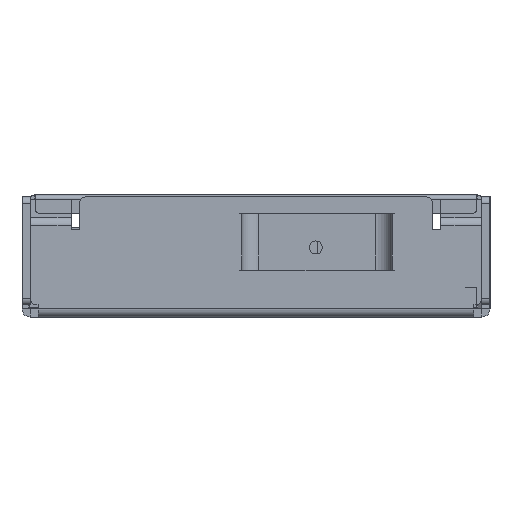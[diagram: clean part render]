
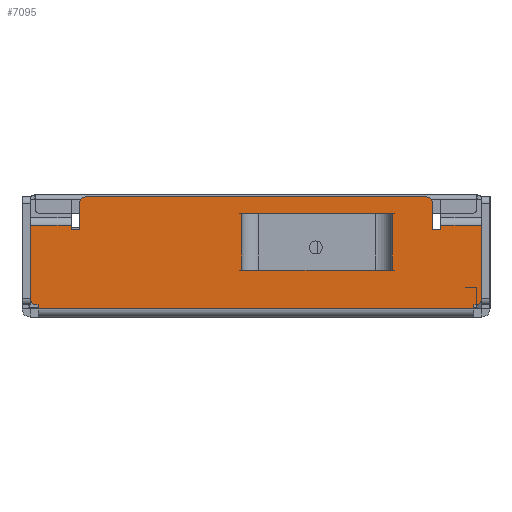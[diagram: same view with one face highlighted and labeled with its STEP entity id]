
A CAD part, left-side view. The second image highlights one B-rep face of the part: STEP entity #7095.
In plain terms, the highlighted planar face has unit normal (-1, 0, 0).
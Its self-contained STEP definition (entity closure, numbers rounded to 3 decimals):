
#1744=DIRECTION('',(0.,0.,-1.));
#1745=VECTOR('',#1744,1.);
#1746=CARTESIAN_POINT('',(0.,62.111,1.));
#1747=LINE('',#1746,#1745);
#1837=DIRECTION('',(0.,-1.,0.));
#1838=VECTOR('',#1837,107.);
#1839=CARTESIAN_POINT('',(0.,62.111,0.));
#1840=LINE('',#1839,#1838);
#1841=CARTESIAN_POINT('',(0.,50.511,26.));
#1842=DIRECTION('',(1.,0.,0.));
#1843=DIRECTION('',(0.,1.,0.));
#1844=AXIS2_PLACEMENT_3D('',#1841,#1842,#1843);
#1846=DIRECTION('',(0.,-1.,0.));
#1847=VECTOR('',#1846,83.8);
#1848=CARTESIAN_POINT('',(0.,50.511,27.5));
#1849=LINE('',#1848,#1847);
#1850=CARTESIAN_POINT('',(0.,-33.289,26.));
#1851=DIRECTION('',(1.,0.,0.));
#1852=DIRECTION('',(0.,0.,1.));
#1853=AXIS2_PLACEMENT_3D('',#1850,#1851,#1852);
#1855=DIRECTION('',(0.,-1.,0.));
#1856=VECTOR('',#1855,2.);
#1857=CARTESIAN_POINT('',(0.,-34.789,19.5));
#1858=LINE('',#1857,#1856);
#1859=DIRECTION('',(0.,0.,1.));
#1860=VECTOR('',#1859,1.);
#1861=CARTESIAN_POINT('',(0.,-36.789,19.5));
#1862=LINE('',#1861,#1860);
#1863=DIRECTION('',(0.,0.,-1.));
#1864=VECTOR('',#1863,18.);
#1865=CARTESIAN_POINT('',(0.,-46.789,20.5));
#1866=LINE('',#1865,#1864);
#1867=CARTESIAN_POINT('',(0.,-45.289,2.5));
#1868=DIRECTION('',(1.,0.,0.));
#1869=DIRECTION('',(0.,-1.,0.));
#1870=AXIS2_PLACEMENT_3D('',#1867,#1868,#1869);
#1872=DIRECTION('',(0.,1.,0.));
#1873=VECTOR('',#1872,0.4);
#1874=CARTESIAN_POINT('',(0.,-45.289,1.));
#1875=LINE('',#1874,#1873);
#1876=DIRECTION('',(0.,0.,-1.));
#1877=VECTOR('',#1876,1.);
#1878=CARTESIAN_POINT('',(0.,-44.889,1.));
#1879=LINE('',#1878,#1877);
#1880=DIRECTION('',(0.,1.,0.));
#1881=VECTOR('',#1880,0.4);
#1882=CARTESIAN_POINT('',(0.,62.111,1.));
#1883=LINE('',#1882,#1881);
#1884=CARTESIAN_POINT('',(0.,62.511,2.5));
#1885=DIRECTION('',(1.,0.,0.));
#1886=DIRECTION('',(0.,0.,-1.));
#1887=AXIS2_PLACEMENT_3D('',#1884,#1885,#1886);
#1889=DIRECTION('',(0.,0.,1.));
#1890=VECTOR('',#1889,18.);
#1891=CARTESIAN_POINT('',(0.,64.011,2.5));
#1892=LINE('',#1891,#1890);
#1893=DIRECTION('',(0.,-1.,0.));
#1894=VECTOR('',#1893,2.);
#1895=CARTESIAN_POINT('',(0.,54.011,19.5));
#1896=LINE('',#1895,#1894);
#1897=DIRECTION('',(0.,0.,1.));
#1898=VECTOR('',#1897,6.5);
#1899=CARTESIAN_POINT('',(0.,52.011,19.5));
#1900=LINE('',#1899,#1898);
#1921=DIRECTION('',(0.,0.,1.));
#1922=VECTOR('',#1921,6.5);
#1923=CARTESIAN_POINT('',(0.,-34.789,19.5));
#1924=LINE('',#1923,#1922);
#2093=DIRECTION('',(0.,1.,0.));
#2094=VECTOR('',#2093,10.);
#2095=CARTESIAN_POINT('',(0.,-46.789,20.5));
#2096=LINE('',#2095,#2094);
#2117=DIRECTION('',(0.,0.,1.));
#2118=VECTOR('',#2117,1.);
#2119=CARTESIAN_POINT('',(0.,54.011,19.5));
#2120=LINE('',#2119,#2118);
#2130=DIRECTION('',(0.,1.,0.));
#2131=VECTOR('',#2130,10.);
#2132=CARTESIAN_POINT('',(0.,54.011,20.5));
#2133=LINE('',#2132,#2131);
#2285=DIRECTION('',(0.,-1.,0.));
#2286=VECTOR('',#2285,37.);
#2287=CARTESIAN_POINT('',(0.,12.111,23.5));
#2288=LINE('',#2287,#2286);
#2307=DIRECTION('',(0.,0.,-1.));
#2308=VECTOR('',#2307,14.);
#2309=CARTESIAN_POINT('',(0.,-24.889,23.5));
#2310=LINE('',#2309,#2308);
#2329=DIRECTION('',(0.,1.,0.));
#2330=VECTOR('',#2329,37.);
#2331=CARTESIAN_POINT('',(0.,-24.889,9.5));
#2332=LINE('',#2331,#2330);
#2351=DIRECTION('',(0.,0.,1.));
#2352=VECTOR('',#2351,14.);
#2353=CARTESIAN_POINT('',(0.,12.111,9.5));
#2354=LINE('',#2353,#2352);
#4749=CARTESIAN_POINT('',(0.,62.111,0.));
#4750=VERTEX_POINT('',#4749);
#4753=CARTESIAN_POINT('',(0.,62.111,1.));
#4754=VERTEX_POINT('',#4753);
#4797=CARTESIAN_POINT('',(0.,-44.889,0.));
#4798=VERTEX_POINT('',#4797);
#4799=CARTESIAN_POINT('',(0.,-44.889,1.));
#4800=VERTEX_POINT('',#4799);
#4801=CARTESIAN_POINT('',(0.,52.011,26.));
#4802=CARTESIAN_POINT('',(0.,50.511,27.5));
#4803=VERTEX_POINT('',#4801);
#4804=VERTEX_POINT('',#4802);
#4805=CARTESIAN_POINT('',(0.,-33.289,27.5));
#4806=VERTEX_POINT('',#4805);
#4807=CARTESIAN_POINT('',(0.,-34.789,26.));
#4808=VERTEX_POINT('',#4807);
#4809=CARTESIAN_POINT('',(0.,-34.789,19.5));
#4810=VERTEX_POINT('',#4809);
#4811=CARTESIAN_POINT('',(0.,-36.789,19.5));
#4812=VERTEX_POINT('',#4811);
#4813=CARTESIAN_POINT('',(0.,-36.789,20.5));
#4814=VERTEX_POINT('',#4813);
#4815=CARTESIAN_POINT('',(0.,-46.789,20.5));
#4816=VERTEX_POINT('',#4815);
#4817=CARTESIAN_POINT('',(0.,-46.789,2.5));
#4818=VERTEX_POINT('',#4817);
#4819=CARTESIAN_POINT('',(0.,-45.289,1.));
#4820=VERTEX_POINT('',#4819);
#4821=CARTESIAN_POINT('',(0.,62.511,1.));
#4822=VERTEX_POINT('',#4821);
#4823=CARTESIAN_POINT('',(0.,64.011,2.5));
#4824=VERTEX_POINT('',#4823);
#4825=CARTESIAN_POINT('',(0.,64.011,20.5));
#4826=VERTEX_POINT('',#4825);
#4827=CARTESIAN_POINT('',(0.,54.011,20.5));
#4828=VERTEX_POINT('',#4827);
#4829=CARTESIAN_POINT('',(0.,54.011,19.5));
#4830=VERTEX_POINT('',#4829);
#4831=CARTESIAN_POINT('',(0.,52.011,19.5));
#4832=VERTEX_POINT('',#4831);
#4833=CARTESIAN_POINT('',(0.,12.111,23.5));
#4834=CARTESIAN_POINT('',(0.,-24.889,23.5));
#4835=VERTEX_POINT('',#4833);
#4836=VERTEX_POINT('',#4834);
#4837=CARTESIAN_POINT('',(0.,12.111,9.5));
#4838=VERTEX_POINT('',#4837);
#4839=CARTESIAN_POINT('',(0.,-24.889,9.5));
#4840=VERTEX_POINT('',#4839);
#7041=CARTESIAN_POINT('',(0.,-46.889,-2.));
#7042=DIRECTION('',(-1.,0.,0.));
#7043=DIRECTION('',(0.,-1.,0.));
#7044=AXIS2_PLACEMENT_3D('',#7041,#7042,#7043);
#7045=PLANE('',#7044);
#7047=ORIENTED_EDGE('',*,*,#7046,.T.);
#7049=ORIENTED_EDGE('',*,*,#7048,.T.);
#7051=ORIENTED_EDGE('',*,*,#7050,.T.);
#7053=ORIENTED_EDGE('',*,*,#7052,.F.);
#7055=ORIENTED_EDGE('',*,*,#7054,.T.);
#7057=ORIENTED_EDGE('',*,*,#7056,.T.);
#7059=ORIENTED_EDGE('',*,*,#7058,.F.);
#7061=ORIENTED_EDGE('',*,*,#7060,.T.);
#7063=ORIENTED_EDGE('',*,*,#7062,.T.);
#7065=ORIENTED_EDGE('',*,*,#7064,.T.);
#7066=ORIENTED_EDGE('',*,*,#6983,.T.);
#7067=ORIENTED_EDGE('',*,*,#7035,.F.);
#7068=ORIENTED_EDGE('',*,*,#6913,.F.);
#7070=ORIENTED_EDGE('',*,*,#7069,.T.);
#7072=ORIENTED_EDGE('',*,*,#7071,.T.);
#7074=ORIENTED_EDGE('',*,*,#7073,.T.);
#7076=ORIENTED_EDGE('',*,*,#7075,.F.);
#7078=ORIENTED_EDGE('',*,*,#7077,.F.);
#7080=ORIENTED_EDGE('',*,*,#7079,.T.);
#7082=ORIENTED_EDGE('',*,*,#7081,.T.);
#7083=EDGE_LOOP('',(#7047,#7049,#7051,#7053,#7055,#7057,#7059,#7061,#7063,#7065,
#7066,#7067,#7068,#7070,#7072,#7074,#7076,#7078,#7080,#7082));
#7084=FACE_OUTER_BOUND('',#7083,.F.);
#7086=ORIENTED_EDGE('',*,*,#7085,.F.);
#7088=ORIENTED_EDGE('',*,*,#7087,.F.);
#7090=ORIENTED_EDGE('',*,*,#7089,.F.);
#7092=ORIENTED_EDGE('',*,*,#7091,.F.);
#7093=EDGE_LOOP('',(#7086,#7088,#7090,#7092));
#7094=FACE_BOUND('',#7093,.F.);
#1845=CIRCLE('',#1844,1.5);
#1854=CIRCLE('',#1853,1.5);
#1871=CIRCLE('',#1870,1.5);
#1888=CIRCLE('',#1887,1.5);
#6913=EDGE_CURVE('',#4754,#4750,#1747,.T.);
#6983=EDGE_CURVE('',#4800,#4798,#1879,.T.);
#7035=EDGE_CURVE('',#4750,#4798,#1840,.T.);
#7046=EDGE_CURVE('',#4803,#4804,#1845,.T.);
#7048=EDGE_CURVE('',#4804,#4806,#1849,.T.);
#7050=EDGE_CURVE('',#4806,#4808,#1854,.T.);
#7052=EDGE_CURVE('',#4810,#4808,#1924,.T.);
#7054=EDGE_CURVE('',#4810,#4812,#1858,.T.);
#7056=EDGE_CURVE('',#4812,#4814,#1862,.T.);
#7058=EDGE_CURVE('',#4816,#4814,#2096,.T.);
#7060=EDGE_CURVE('',#4816,#4818,#1866,.T.);
#7062=EDGE_CURVE('',#4818,#4820,#1871,.T.);
#7064=EDGE_CURVE('',#4820,#4800,#1875,.T.);
#7069=EDGE_CURVE('',#4754,#4822,#1883,.T.);
#7071=EDGE_CURVE('',#4822,#4824,#1888,.T.);
#7073=EDGE_CURVE('',#4824,#4826,#1892,.T.);
#7075=EDGE_CURVE('',#4828,#4826,#2133,.T.);
#7077=EDGE_CURVE('',#4830,#4828,#2120,.T.);
#7079=EDGE_CURVE('',#4830,#4832,#1896,.T.);
#7081=EDGE_CURVE('',#4832,#4803,#1900,.T.);
#7085=EDGE_CURVE('',#4835,#4836,#2288,.T.);
#7087=EDGE_CURVE('',#4838,#4835,#2354,.T.);
#7089=EDGE_CURVE('',#4840,#4838,#2332,.T.);
#7091=EDGE_CURVE('',#4836,#4840,#2310,.T.);
#7095=ADVANCED_FACE('',(#7084,#7094),#7045,.T.);
